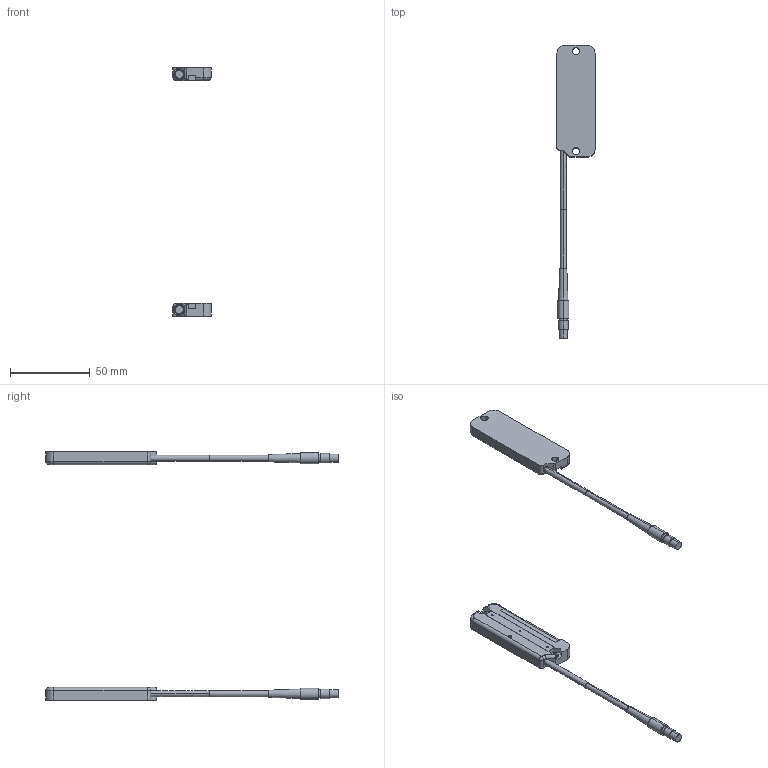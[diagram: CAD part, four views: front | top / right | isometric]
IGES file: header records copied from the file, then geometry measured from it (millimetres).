
Start section: SolidWorks IGES FILE using analytic representation for surfaces
Global section: file name: C:\Documents and Settings\yk0651\デスクトップ\3D_catalog_050929\0_IGES\NA1-PK3.IGS; native system: SolidWorks 2004 by SolidWorks Corporation; preprocessor: Version 5.3; author: yk0651; date: 051001.154053; units: millimetre
Bounding box: 24 x 184 x 156 mm (x, y, z)
Volume: 28837 mm3; surface area: 12966.1 mm2
Topology: 4 solids, 4 shells, 185 faces, 451 edges, 290 vertices
Faces by surface type: plane 100, revolution 85
